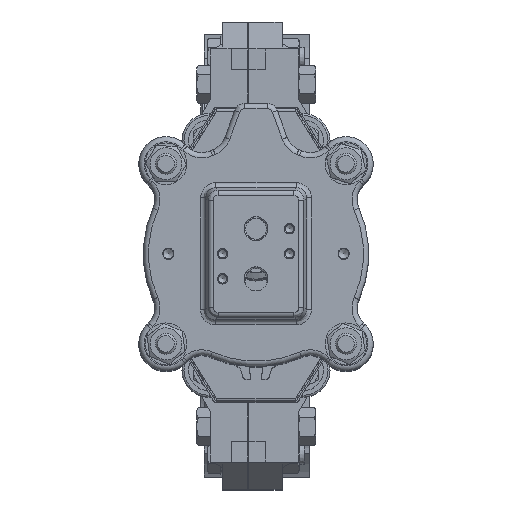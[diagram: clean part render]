
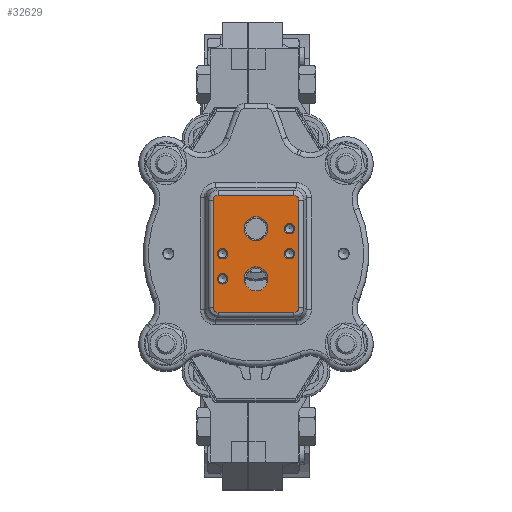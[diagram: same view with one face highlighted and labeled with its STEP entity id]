
A CAD part, top view. The second image highlights one B-rep face of the part: STEP entity #32629.
In plain terms, the highlighted planar face has unit normal (0, 0, 1).
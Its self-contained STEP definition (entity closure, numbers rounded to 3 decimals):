
#166=ELLIPSE('',#34933,2.673,2.5);
#167=ELLIPSE('',#34934,2.673,2.5);
#168=ELLIPSE('',#34935,2.673,2.5);
#169=ELLIPSE('',#34936,2.673,2.5);
#2023=LINE('',#49888,#3876);
#2024=LINE('',#49892,#3877);
#2025=LINE('',#49896,#3878);
#2026=LINE('',#49899,#3879);
#3876=VECTOR('',#39307,10.);
#3877=VECTOR('',#39310,10.);
#3878=VECTOR('',#39313,10.);
#3879=VECTOR('',#39316,10.);
#5717=PLANE('',#34932);
#6612=FACE_BOUND('',#9440,.T.);
#6613=FACE_BOUND('',#9441,.T.);
#6614=FACE_BOUND('',#9442,.T.);
#6615=FACE_BOUND('',#9443,.T.);
#6616=FACE_BOUND('',#9444,.T.);
#6617=FACE_BOUND('',#9445,.T.);
#7274=FACE_OUTER_BOUND('',#9439,.T.);
#9439=EDGE_LOOP('',(#21835,#21836,#21837,#21838,#21839,#21840,#21841,#21842));
#9440=EDGE_LOOP('',(#21843));
#9441=EDGE_LOOP('',(#21844));
#9442=EDGE_LOOP('',(#21845));
#9443=EDGE_LOOP('',(#21846));
#9444=EDGE_LOOP('',(#21847));
#9445=EDGE_LOOP('',(#21848));
#11872=CIRCLE('',#34805,5.723);
#11874=CIRCLE('',#34808,5.723);
#11964=CIRCLE('',#34931,2.5);
#11965=CIRCLE('',#34937,2.5);
#11966=CIRCLE('',#34938,2.5);
#11967=CIRCLE('',#34939,2.5);
#13833=VERTEX_POINT('',#49254);
#13834=VERTEX_POINT('',#49258);
#13934=VERTEX_POINT('',#49881);
#13935=VERTEX_POINT('',#49884);
#13936=VERTEX_POINT('',#49885);
#13937=VERTEX_POINT('',#49887);
#13938=VERTEX_POINT('',#49889);
#13939=VERTEX_POINT('',#49891);
#13940=VERTEX_POINT('',#49893);
#13941=VERTEX_POINT('',#49895);
#13942=VERTEX_POINT('',#49897);
#13943=VERTEX_POINT('',#49900);
#13944=VERTEX_POINT('',#49902);
#13945=VERTEX_POINT('',#49904);
#16846=EDGE_CURVE('',#13833,#13833,#11872,.T.);
#16848=EDGE_CURVE('',#13834,#13834,#11874,.T.);
#16978=EDGE_CURVE('',#13934,#13934,#11964,.T.);
#16979=EDGE_CURVE('',#13935,#13936,#166,.T.);
#16980=EDGE_CURVE('',#13937,#13935,#2023,.T.);
#16981=EDGE_CURVE('',#13938,#13937,#167,.T.);
#16982=EDGE_CURVE('',#13939,#13938,#2024,.T.);
#16983=EDGE_CURVE('',#13940,#13939,#168,.T.);
#16984=EDGE_CURVE('',#13941,#13940,#2025,.T.);
#16985=EDGE_CURVE('',#13942,#13941,#169,.T.);
#16986=EDGE_CURVE('',#13936,#13942,#2026,.T.);
#16987=EDGE_CURVE('',#13943,#13943,#11965,.T.);
#16988=EDGE_CURVE('',#13944,#13944,#11966,.T.);
#16989=EDGE_CURVE('',#13945,#13945,#11967,.T.);
#21835=ORIENTED_EDGE('',*,*,#16979,.F.);
#21836=ORIENTED_EDGE('',*,*,#16980,.F.);
#21837=ORIENTED_EDGE('',*,*,#16981,.F.);
#21838=ORIENTED_EDGE('',*,*,#16982,.F.);
#21839=ORIENTED_EDGE('',*,*,#16983,.F.);
#21840=ORIENTED_EDGE('',*,*,#16984,.F.);
#21841=ORIENTED_EDGE('',*,*,#16985,.F.);
#21842=ORIENTED_EDGE('',*,*,#16986,.F.);
#21843=ORIENTED_EDGE('',*,*,#16846,.T.);
#21844=ORIENTED_EDGE('',*,*,#16848,.T.);
#21845=ORIENTED_EDGE('',*,*,#16987,.F.);
#21846=ORIENTED_EDGE('',*,*,#16988,.F.);
#21847=ORIENTED_EDGE('',*,*,#16989,.F.);
#21848=ORIENTED_EDGE('',*,*,#16978,.F.);
#32629=ADVANCED_FACE('',(#7274,#6612,#6613,#6614,#6615,#6616,#6617),#5717,
 .F.);
#34805=AXIS2_PLACEMENT_3D('',#49255,#39027,#39028);
#34808=AXIS2_PLACEMENT_3D('',#49259,#39033,#39034);
#34931=AXIS2_PLACEMENT_3D('',#49882,#39301,#39302);
#34932=AXIS2_PLACEMENT_3D('',#49883,#39303,#39304);
#34933=AXIS2_PLACEMENT_3D('',#49886,#39305,#39306);
#34934=AXIS2_PLACEMENT_3D('',#49890,#39308,#39309);
#34935=AXIS2_PLACEMENT_3D('',#49894,#39311,#39312);
#34936=AXIS2_PLACEMENT_3D('',#49898,#39314,#39315);
#34937=AXIS2_PLACEMENT_3D('',#49901,#39317,#39318);
#34938=AXIS2_PLACEMENT_3D('',#49903,#39319,#39320);
#34939=AXIS2_PLACEMENT_3D('',#49905,#39321,#39322);
#39027=DIRECTION('center_axis',(0.,0.,
-1.));
#39028=DIRECTION('ref_axis',(0.,1.,0.));
#39033=DIRECTION('center_axis',(0.,0.,
-1.));
#39034=DIRECTION('ref_axis',(0.,1.,0.));
#39301=DIRECTION('center_axis',(0.,0.,
1.));
#39302=DIRECTION('ref_axis',(0.,-1.,0.));
#39303=DIRECTION('center_axis',(0.,0.,
-1.));
#39304=DIRECTION('ref_axis',(0.,-1.,0.));
#39305=DIRECTION('center_axis',(0.,0.,
-1.));
#39306=DIRECTION('ref_axis',(0.707,-0.707,0.));
#39307=DIRECTION('',(0.,-1.,0.));
#39308=DIRECTION('center_axis',(0.,0.,
-1.));
#39309=DIRECTION('ref_axis',(0.707,0.707,0.));
#39310=DIRECTION('',(1.,0.,0.));
#39311=DIRECTION('center_axis',(0.,0.,
-1.));
#39312=DIRECTION('ref_axis',(-0.707,0.707,0.));
#39313=DIRECTION('',(0.,1.,0.));
#39314=DIRECTION('center_axis',(0.,0.,
-1.));
#39315=DIRECTION('ref_axis',(-0.707,-0.707,0.));
#39316=DIRECTION('',(-1.,0.,0.));
#39317=DIRECTION('center_axis',(0.,0.,
1.));
#39318=DIRECTION('ref_axis',(0.,-1.,0.));
#39319=DIRECTION('center_axis',(0.,0.,
1.));
#39320=DIRECTION('ref_axis',(0.,-1.,0.));
#39321=DIRECTION('center_axis',(0.,0.,
1.));
#39322=DIRECTION('ref_axis',(0.,-1.,0.));
#49254=CARTESIAN_POINT('',(0.,-6.278,610.5));
#49255=CARTESIAN_POINT('Origin',(0.,-12.,610.5));
#49258=CARTESIAN_POINT('',(0.,17.723,610.5));
#49259=CARTESIAN_POINT('Origin',(0.,12.,610.5));
#49881=CARTESIAN_POINT('',(-16.,-9.5,610.5));
#49882=CARTESIAN_POINT('Origin',(-16.,-12.,610.5));
#49883=CARTESIAN_POINT('Origin',(0.,0.,
610.5));
#49884=CARTESIAN_POINT('',(20.582,-25.667,610.5));
#49885=CARTESIAN_POINT('',(18.167,-28.082,610.5));
#49886=CARTESIAN_POINT('Origin',(17.993,-25.493,610.5));
#49887=CARTESIAN_POINT('',(20.582,25.667,610.5));
#49888=CARTESIAN_POINT('',(20.582,-15.,610.5));
#49889=CARTESIAN_POINT('',(18.167,28.082,610.5));
#49890=CARTESIAN_POINT('Origin',(17.993,25.493,610.5));
#49891=CARTESIAN_POINT('',(-18.167,28.082,610.5));
#49892=CARTESIAN_POINT('',(11.25,28.082,610.5));
#49893=CARTESIAN_POINT('',(-20.582,25.667,610.5));
#49894=CARTESIAN_POINT('Origin',(-17.993,25.493,610.5));
#49895=CARTESIAN_POINT('',(-20.582,-25.667,610.5));
#49896=CARTESIAN_POINT('',(-20.582,15.,610.5));
#49897=CARTESIAN_POINT('',(-18.167,-28.082,610.5));
#49898=CARTESIAN_POINT('Origin',(-17.993,-25.493,610.5));
#49899=CARTESIAN_POINT('',(-11.25,-28.082,610.5));
#49900=CARTESIAN_POINT('',(-16.,2.5,610.5));
#49901=CARTESIAN_POINT('Origin',(-16.,0.,
610.5));
#49902=CARTESIAN_POINT('',(16.,14.5,610.5));
#49903=CARTESIAN_POINT('Origin',(16.,12.,610.5));
#49904=CARTESIAN_POINT('',(16.,2.5,610.5));
#49905=CARTESIAN_POINT('Origin',(16.,0.,
610.5));
